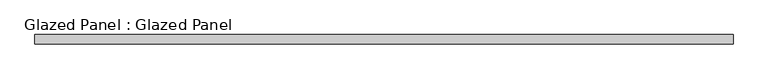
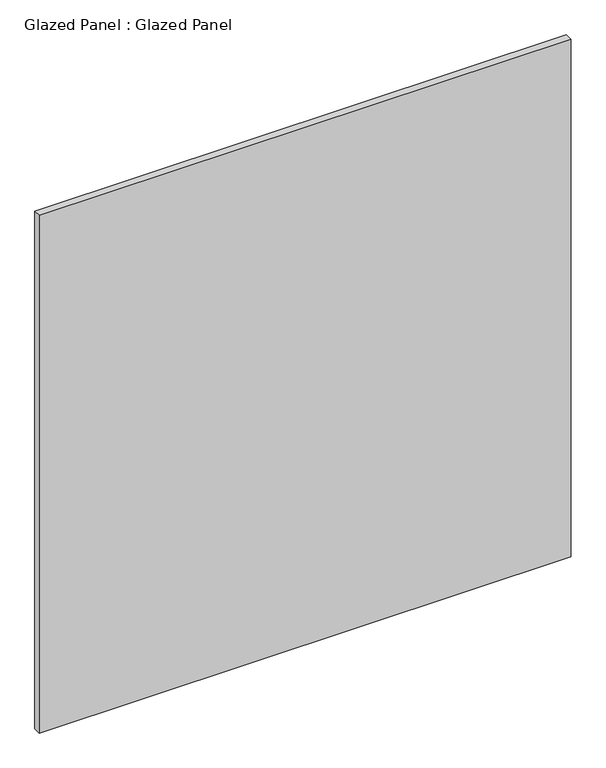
"""IFC4 building model written with IfcOpenShell, lengths in millimetres: plate geometry, Glazed Panel : Glazed Panel."""

from ifc_helpers import new_model, si_unit, origin, origin_with_axes, place, context, project, spatial, polyline, outline, extrude, source, transform, mapped, element, save


def glazed_panel_glazed_panel_746f6af5(model_context):
    return source(origin(), model_context, "Body", "SweptSolid", [
        extrude(outline(polyline([(941.0828467, 38.1), (-941.0828467, 38.1), (-941.0828467, 63.5), (941.0828467, 63.5), (941.0828467, 38.1)])), origin_with_axes(), (0.0, 0.0, 1.0), 1936.75),
    ])


if __name__ == "__main__":
    model = new_model("IFC4")
    model_context = context("Model", 3, world=origin())
    ifc_project = project(units=[si_unit("LENGTHUNIT", "METRE", prefix="MILLI")], contexts=[model_context])
    site = spatial("IfcSite", under=ifc_project)
    building = spatial("IfcBuilding", under=site)
    placement = place(None, origin())
    glazed_panel_glazed_panel_shape = glazed_panel_glazed_panel_746f6af5(model_context)
    element("IfcPlate", 1, ObjectType="Glazed Panel : Glazed Panel", at=placement, inside=building, context=model_context, shape_type="MappedRepresentation", body=[
        mapped(glazed_panel_glazed_panel_shape, transform((0.0, 0.0, 0.0), x_axis=(1.0, 0.0, 0.0), y_axis=(0.0, 1.0, 0.0), z_axis=(0.0, 0.0, 1.0))),
    ])
    save(model, "model.ifc")
